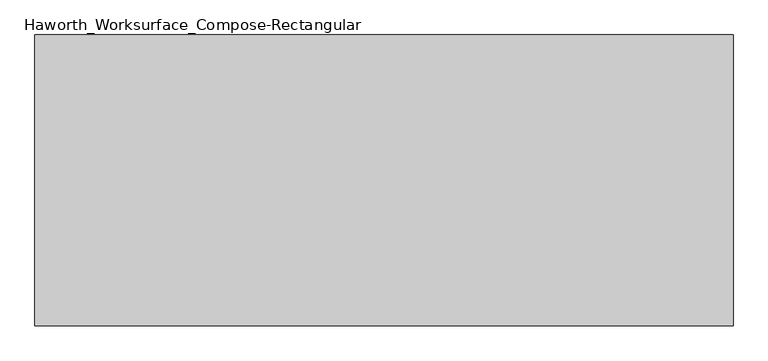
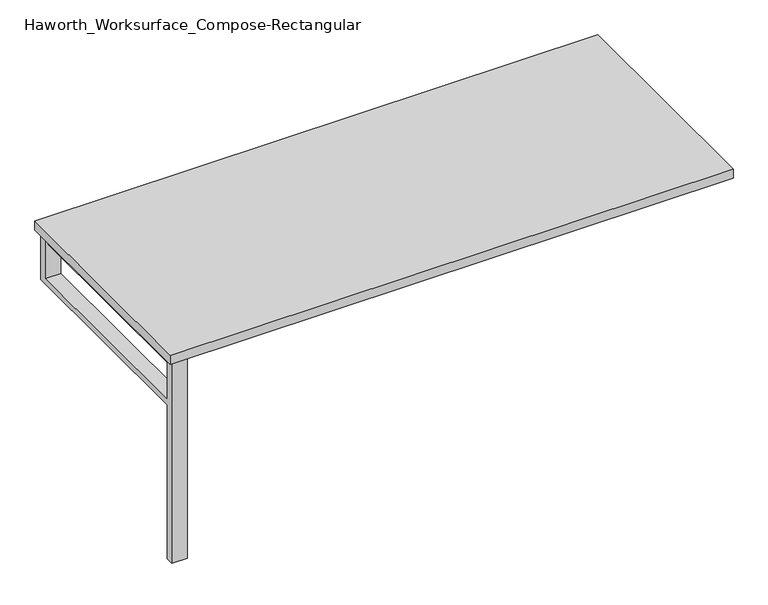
"""IFC4 building model written with IfcOpenShell, lengths in millimetres: furniture geometry, Haworth_Worksurface_Compose-Rectangular : 30'' x 72''."""

from ifc_helpers import new_model, si_unit, frame, origin, place, context, project, spatial, polyline, outline, extrude, source, transform, mapped, element, save


def haworth_worksurface_compose_rectangular_214f8582(model_context):
    return source(origin(), model_context, "Body", "SweptSolid", [
        extrude(outline(polyline([(-854.075, 355.6), (-854.075, -330.2), (-885.825, -330.2), (-885.825, 355.6), (-854.075, 355.6)])), frame((0.0, 0.0, 661.9875), z_axis=(0.0, 0.0, 1.0), x_axis=(1.0, 0.0, 0.0)), (0.0, 0.0, 1.0), 44.45),
        extrude(outline(polyline([(-330.2, 528.6375), (-330.2, 0.0), (-355.6, 0.0), (-355.6, 706.4375), (-330.2, 706.4375), (-330.2, 547.6875), (355.6, 547.6875), (355.6, 706.4375), (381.0, 706.4375), (381.0, 528.6375), (-330.2, 528.6375)])), frame((-895.35, 0.0, 0.0), z_axis=(1.0, 0.0, 0.0), x_axis=(0.0, 1.0, 0.0)), (0.0, 0.0, 1.0), 50.8),
        extrude(outline(polyline([(914.4, 381.0), (914.4, -381.0), (-914.4, -381.0), (-914.4, 381.0), (914.4, 381.0)])), frame((0.0, 0.0, 706.4375), z_axis=(0.0, 0.0, 1.0), x_axis=(1.0, 0.0, 0.0)), (0.0, 0.0, 1.0), 30.1625),
    ])


if __name__ == "__main__":
    model = new_model("IFC4")
    model_context = context("Model", 3, world=origin())
    ifc_project = project(units=[si_unit("LENGTHUNIT", "METRE", prefix="MILLI")], contexts=[model_context])
    site = spatial("IfcSite", under=ifc_project)
    building = spatial("IfcBuilding", under=site)
    placement = place(None, origin())
    haworth_worksurface_compose_rectangular_shape = haworth_worksurface_compose_rectangular_214f8582(model_context)
    element("IfcFurniture", 1, ObjectType="Haworth_Worksurface_Compose-Rectangular : 30'' x 72''", at=placement, inside=building, context=model_context, shape_type="MappedRepresentation", body=[
        mapped(haworth_worksurface_compose_rectangular_shape, transform((0.0, 0.0, 0.0), x_axis=(1.0, 0.0, 0.0), y_axis=(0.0, 1.0, 0.0), z_axis=(0.0, 0.0, 1.0))),
    ])
    save(model, "model.ifc")
